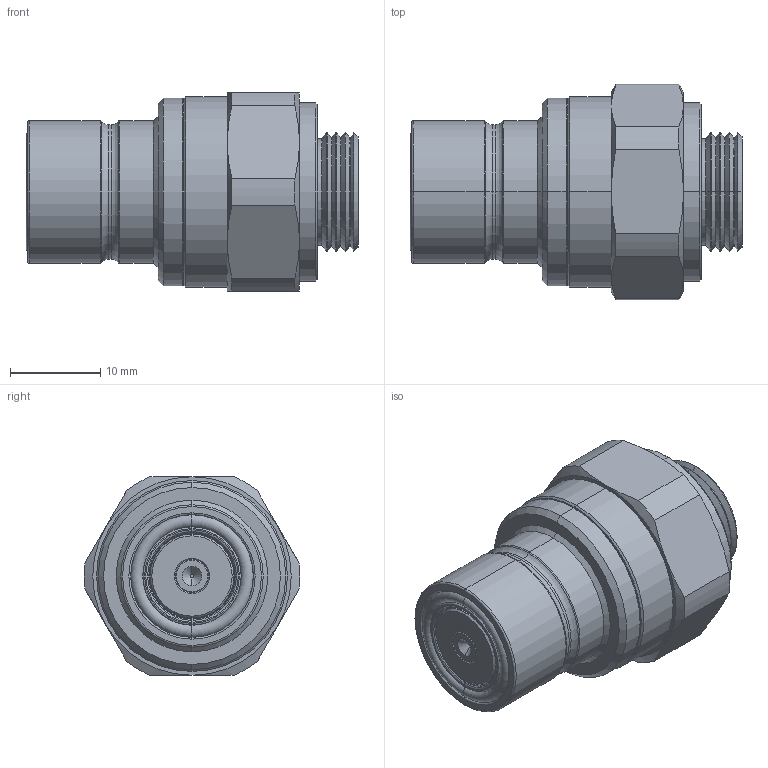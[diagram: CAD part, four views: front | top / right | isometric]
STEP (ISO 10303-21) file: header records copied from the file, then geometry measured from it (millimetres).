
FILE_DESCRIPTION (( 'STEP AP203' ), '1' );
FILE_NAME ('QD3-MTG4.STEP', '2025-01-02T02:41:25', ( 'aksong' ), ( '' ), 'SwSTEP 2.0', 'SolidWorks 2012', '' );
FILE_SCHEMA (( 'CONFIG_CONTROL_DESIGN' ));
Length unit declared in the file: millimetre
Products named in the file (3): QD3-MTG4; g1_4, male 喻闌; male body
Assembly tree (2 placements, depth 2):
  QD3-MTG4
    male body
    g1_4, male 喻闌
Bounding box: 36.82 x 23.88 x 22 mm (x, y, z)
Volume: 8812.6 mm3; surface area: 4193.9 mm2
Topology: 2 solids, 2 shells, 134 faces, 282 edges, 164 vertices
Faces by surface type: cone 50, cylinder 40, torus 22, plane 22
Entity records: 3947 total; most frequent: DIRECTION 704, CARTESIAN_POINT 693, ORIENTED_EDGE 564, AXIS2_PLACEMENT_3D 307, EDGE_CURVE 282, CIRCLE 168, VERTEX_POINT 164, EDGE_LOOP 148
